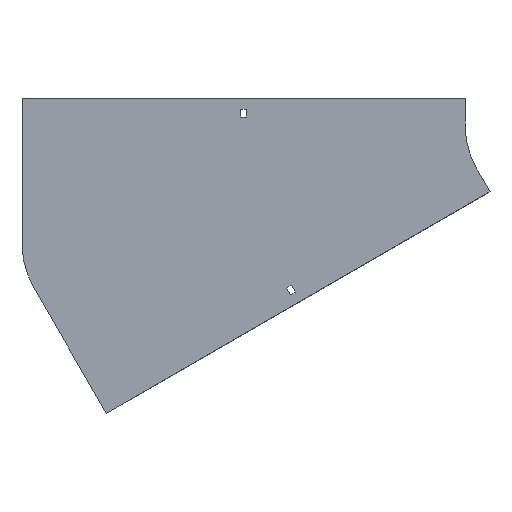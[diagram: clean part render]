
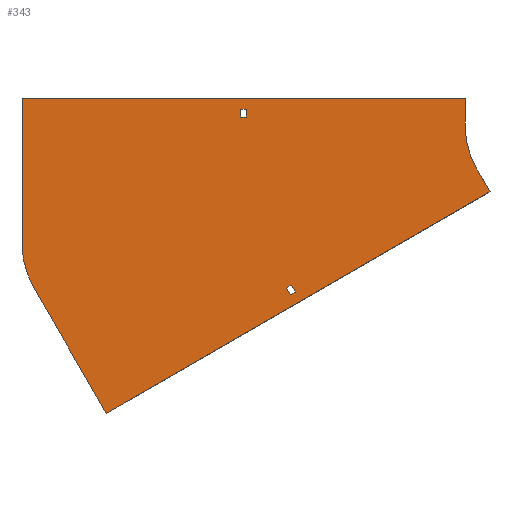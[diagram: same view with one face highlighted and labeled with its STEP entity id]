
A CAD part, front view. The second image highlights one B-rep face of the part: STEP entity #343.
In plain terms, the highlighted planar face has unit normal (0, -1, 0).
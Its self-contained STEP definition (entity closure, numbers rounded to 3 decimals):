
#2 = ORIENTED_EDGE ( 'NONE', *, *, #477, .T. ) ;
#45 = DIRECTION ( 'NONE',  ( -0.5, 0., 0.866 ) ) ;
#50 = LINE ( 'NONE', #251, #681 ) ;
#54 = VECTOR ( 'NONE', #1179, 1000. ) ;
#55 = VECTOR ( 'NONE', #1270, 1000. ) ;
#62 = CARTESIAN_POINT ( 'NONE',  ( -303.156, 0., -185.419 ) ) ;
#66 = CARTESIAN_POINT ( 'NONE',  ( -86.603, 0., -50. ) ) ;
#73 = EDGE_LOOP ( 'NONE', ( #202, #747, #400, #509 ) ) ;
#79 = VECTOR ( 'NONE', #814, 1000. ) ;
#80 = VECTOR ( 'NONE', #353, 1000. ) ;
#81 = VERTEX_POINT ( 'NONE', #62 ) ;
#114 = DIRECTION ( 'NONE',  ( 0.866, 0., 0.5 ) ) ;
#127 = LINE ( 'NONE', #427, #54 ) ;
#133 = EDGE_CURVE ( 'NONE', #1090, #81, #668, .T. ) ;
#136 = EDGE_CURVE ( 'NONE', #1300, #1121, #1320, .T. ) ;
#140 = CARTESIAN_POINT ( 'NONE',  ( -297.526, 0., -182.169 ) ) ;
#169 = VECTOR ( 'NONE', #114, 1000. ) ;
#182 = DIRECTION ( 'NONE',  ( 0., 0., -1. ) ) ;
#193 = EDGE_CURVE ( 'NONE', #843, #1042, #513, .T. ) ;
#202 = ORIENTED_EDGE ( 'NONE', *, *, #1183, .F. ) ;
#205 = VERTEX_POINT ( 'NONE', #931 ) ;
#229 = FACE_BOUND ( 'NONE', #73, .T. ) ;
#251 = CARTESIAN_POINT ( 'NONE',  ( -355.25, 0., 9. ) ) ;
#253 = CARTESIAN_POINT ( 'NONE',  ( -355.25, 0., 18. ) ) ;
#257 = EDGE_CURVE ( 'NONE', #1121, #1378, #399, .T. ) ;
#266 = AXIS2_PLACEMENT_3D ( 'NONE', #1149, #611, #182 ) ;
#274 = EDGE_CURVE ( 'NONE', #745, #205, #1174, .T. ) ;
#276 = CARTESIAN_POINT ( 'NONE',  ( -100., 0., 30. ) ) ;
#286 = EDGE_CURVE ( 'NONE', #458, #843, #405, .T. ) ;
#304 = VECTOR ( 'NONE', #1125, 1000. ) ;
#305 = VECTOR ( 'NONE', #520, 1000. ) ;
#310 = VERTEX_POINT ( 'NONE', #538 ) ;
#319 = CARTESIAN_POINT ( 'NONE',  ( -355.25, 0., 9. ) ) ;
#343 = ADVANCED_FACE ( 'NONE', ( #1087, #527, #229 ), #757, .T. ) ;
#353 = DIRECTION ( 'NONE',  ( -0.5, 0., 0.866 ) ) ;
#354 = AXIS2_PLACEMENT_3D ( 'NONE', #560, #881, #980 ) ;
#373 = VECTOR ( 'NONE', #1286, 1000. ) ;
#384 = VERTEX_POINT ( 'NONE', #319 ) ;
#397 = LINE ( 'NONE', #1162, #1143 ) ;
#399 = LINE ( 'NONE', #1044, #799 ) ;
#400 = ORIENTED_EDGE ( 'NONE', *, *, #133, .F. ) ;
#405 = LINE ( 'NONE', #836, #55 ) ;
#427 = CARTESIAN_POINT ( 'NONE',  ( -355.25, 0., 9. ) ) ;
#458 = VERTEX_POINT ( 'NONE', #897 ) ;
#460 = CARTESIAN_POINT ( 'NONE',  ( -100., 0., 0. ) ) ;
#476 = ORIENTED_EDGE ( 'NONE', *, *, #690, .F. ) ;
#477 = EDGE_CURVE ( 'NONE', #384, #1300, #50, .T. ) ;
#481 = LINE ( 'NONE', #140, #1057 ) ;
#509 = ORIENTED_EDGE ( 'NONE', *, *, #524, .F. ) ;
#512 = DIRECTION ( 'NONE',  ( 0., 0., 1. ) ) ;
#513 = LINE ( 'NONE', #1390, #305 ) ;
#519 = ORIENTED_EDGE ( 'NONE', *, *, #274, .F. ) ;
#520 = DIRECTION ( 'NONE',  ( 1., 0., 0. ) ) ;
#524 = EDGE_CURVE ( 'NONE', #988, #1090, #481, .T. ) ;
#527 = FACE_OUTER_BOUND ( 'NONE', #1328, .T. ) ;
#538 = CARTESIAN_POINT ( 'NONE',  ( -590.603, 0., -185.046 ) ) ;
#546 = LINE ( 'NONE', #646, #169 ) ;
#560 = CARTESIAN_POINT ( 'NONE',  ( 0., 0., 0. ) ) ;
#603 = EDGE_CURVE ( 'NONE', #1042, #1362, #397, .T. ) ;
#611 = DIRECTION ( 'NONE',  ( 0., -1., 0. ) ) ;
#628 = CARTESIAN_POINT ( 'NONE',  ( -71.603, 0., -75.981 ) ) ;
#646 = CARTESIAN_POINT ( 'NONE',  ( -298.656, 0., -193.213 ) ) ;
#648 = CARTESIAN_POINT ( 'NONE',  ( -298.656, 0., -193.213 ) ) ;
#653 = CARTESIAN_POINT ( 'NONE',  ( -303.156, 0., -185.419 ) ) ;
#659 = VECTOR ( 'NONE', #1339, 1000. ) ;
#668 = LINE ( 'NONE', #1094, #891 ) ;
#676 = ORIENTED_EDGE ( 'NONE', *, *, #1199, .T. ) ;
#679 = LINE ( 'NONE', #1007, #304 ) ;
#681 = VECTOR ( 'NONE', #887, 1000. ) ;
#690 = EDGE_CURVE ( 'NONE', #310, #458, #869, .T. ) ;
#704 = EDGE_CURVE ( 'NONE', #1362, #1117, #1304, .T. ) ;
#708 = ORIENTED_EDGE ( 'NONE', *, *, #856, .F. ) ;
#710 = DIRECTION ( 'NONE',  ( 0., 1., 0. ) ) ;
#714 = EDGE_LOOP ( 'NONE', ( #2, #953, #969, #676 ) ) ;
#745 = VERTEX_POINT ( 'NONE', #851 ) ;
#747 = ORIENTED_EDGE ( 'NONE', *, *, #1187, .F. ) ;
#757 = PLANE ( 'NONE',  #354 ) ;
#781 = VERTEX_POINT ( 'NONE', #648 ) ;
#793 = LINE ( 'NONE', #1118, #80 ) ;
#799 = VECTOR ( 'NONE', #830, 1000. ) ;
#814 = DIRECTION ( 'NONE',  ( -0.866, 0., -0.5 ) ) ;
#830 = DIRECTION ( 'NONE',  ( 0., 0., -1. ) ) ;
#836 = CARTESIAN_POINT ( 'NONE',  ( -604., 0., -135.046 ) ) ;
#843 = VERTEX_POINT ( 'NONE', #1296 ) ;
#851 = CARTESIAN_POINT ( 'NONE',  ( -71.603, 0., -75.981 ) ) ;
#856 = EDGE_CURVE ( 'NONE', #205, #310, #793, .T. ) ;
#859 = ORIENTED_EDGE ( 'NONE', *, *, #1369, .F. ) ;
#862 = ORIENTED_EDGE ( 'NONE', *, *, #193, .F. ) ;
#869 = CIRCLE ( 'NONE', #1102, 100. ) ;
#881 = DIRECTION ( 'NONE',  ( 0., -1., 0. ) ) ;
#887 = DIRECTION ( 'NONE',  ( 0., 0., 1. ) ) ;
#891 = VECTOR ( 'NONE', #1220, 1000. ) ;
#897 = CARTESIAN_POINT ( 'NONE',  ( -604., 0., -135.046 ) ) ;
#900 = CARTESIAN_POINT ( 'NONE',  ( -348.75, 0., 9. ) ) ;
#923 = DIRECTION ( 'NONE',  ( 0., 0., -1. ) ) ;
#929 = CARTESIAN_POINT ( 'NONE',  ( -348.75, 0., 18. ) ) ;
#931 = CARTESIAN_POINT ( 'NONE',  ( -508.079, 0., -327.981 ) ) ;
#953 = ORIENTED_EDGE ( 'NONE', *, *, #136, .T. ) ;
#969 = ORIENTED_EDGE ( 'NONE', *, *, #257, .T. ) ;
#980 = DIRECTION ( 'NONE',  ( 0., 0., -1. ) ) ;
#988 = VERTEX_POINT ( 'NONE', #1348 ) ;
#993 = CARTESIAN_POINT ( 'NONE',  ( -355.25, 0., 18. ) ) ;
#1007 = CARTESIAN_POINT ( 'NONE',  ( -86.603, 0., -50. ) ) ;
#1042 = VERTEX_POINT ( 'NONE', #276 ) ;
#1044 = CARTESIAN_POINT ( 'NONE',  ( -348.75, 0., 9. ) ) ;
#1057 = VECTOR ( 'NONE', #45, 1000. ) ;
#1064 = ORIENTED_EDGE ( 'NONE', *, *, #603, .F. ) ;
#1087 = FACE_BOUND ( 'NONE', #714, .T. ) ;
#1089 = LINE ( 'NONE', #653, #373 ) ;
#1090 = VERTEX_POINT ( 'NONE', #1261 ) ;
#1094 = CARTESIAN_POINT ( 'NONE',  ( -303.156, 0., -185.419 ) ) ;
#1102 = AXIS2_PLACEMENT_3D ( 'NONE', #1250, #710, #512 ) ;
#1117 = VERTEX_POINT ( 'NONE', #66 ) ;
#1118 = CARTESIAN_POINT ( 'NONE',  ( -508.079, 0., -327.981 ) ) ;
#1121 = VERTEX_POINT ( 'NONE', #929 ) ;
#1125 = DIRECTION ( 'NONE',  ( 0.5, 0., -0.866 ) ) ;
#1126 = ORIENTED_EDGE ( 'NONE', *, *, #704, .F. ) ;
#1143 = VECTOR ( 'NONE', #923, 1000. ) ;
#1149 = CARTESIAN_POINT ( 'NONE',  ( 0., 0., 0. ) ) ;
#1162 = CARTESIAN_POINT ( 'NONE',  ( -100., 0., 30. ) ) ;
#1174 = LINE ( 'NONE', #628, #79 ) ;
#1179 = DIRECTION ( 'NONE',  ( -1., 0., 0. ) ) ;
#1183 = EDGE_CURVE ( 'NONE', #781, #988, #546, .T. ) ;
#1187 = EDGE_CURVE ( 'NONE', #81, #781, #1089, .T. ) ;
#1199 = EDGE_CURVE ( 'NONE', #1378, #384, #127, .T. ) ;
#1220 = DIRECTION ( 'NONE',  ( -0.866, 0., -0.5 ) ) ;
#1250 = CARTESIAN_POINT ( 'NONE',  ( -504., 0., -135.046 ) ) ;
#1261 = CARTESIAN_POINT ( 'NONE',  ( -297.526, 0., -182.169 ) ) ;
#1269 = ORIENTED_EDGE ( 'NONE', *, *, #286, .F. ) ;
#1270 = DIRECTION ( 'NONE',  ( 0., 0., 1. ) ) ;
#1286 = DIRECTION ( 'NONE',  ( 0.5, 0., -0.866 ) ) ;
#1296 = CARTESIAN_POINT ( 'NONE',  ( -604., 0., 30. ) ) ;
#1300 = VERTEX_POINT ( 'NONE', #253 ) ;
#1304 = CIRCLE ( 'NONE', #266, 100. ) ;
#1320 = LINE ( 'NONE', #993, #659 ) ;
#1328 = EDGE_LOOP ( 'NONE', ( #862, #1269, #476, #708, #519, #859, #1126, #1064 ) ) ;
#1339 = DIRECTION ( 'NONE',  ( 1., 0., 0. ) ) ;
#1348 = CARTESIAN_POINT ( 'NONE',  ( -293.026, 0., -189.963 ) ) ;
#1362 = VERTEX_POINT ( 'NONE', #460 ) ;
#1369 = EDGE_CURVE ( 'NONE', #1117, #745, #679, .T. ) ;
#1378 = VERTEX_POINT ( 'NONE', #900 ) ;
#1390 = CARTESIAN_POINT ( 'NONE',  ( -604., 0., 30. ) ) ;
